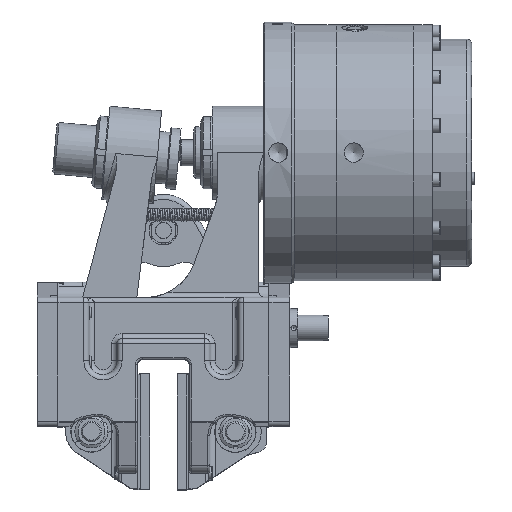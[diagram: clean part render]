
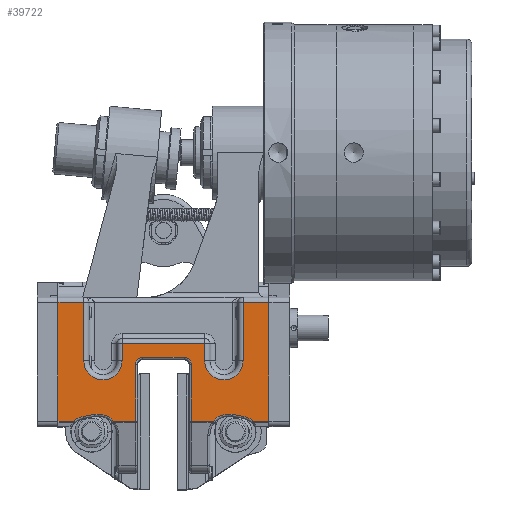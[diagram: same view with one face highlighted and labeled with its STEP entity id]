
A CAD part, top view. The second image highlights one B-rep face of the part: STEP entity #39722.
In plain terms, the highlighted planar face has unit normal (0, 0, 1).
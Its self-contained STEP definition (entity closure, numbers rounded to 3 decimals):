
#2917=CIRCLE('',#42582,20.);
#2921=CIRCLE('',#42588,18.);
#2923=CIRCLE('',#42594,7.);
#2924=CIRCLE('',#42595,7.);
#2925=CIRCLE('',#42596,20.);
#2926=CIRCLE('',#42597,18.);
#2927=CIRCLE('',#42598,18.5);
#2928=CIRCLE('',#42599,18.5);
#5168=FACE_OUTER_BOUND('',#7435,.T.);
#7435=EDGE_LOOP('',(#27629,#27630,#27631,#27632,#27633,#27634,#27635,#27636,
#27637,#27638,#27639,#27640,#27641,#27642,#27643,#27644,#27645,#27646,#27647,
#27648,#27649,#27650,#27651,#27652,#27653,#27654));
#9918=LINE('',#62353,#12553);
#10060=LINE('',#62819,#12695);
#10204=LINE('',#63672,#12839);
#10205=LINE('',#63745,#12840);
#10207=LINE('',#63749,#12842);
#10208=LINE('',#63751,#12843);
#10209=LINE('',#63755,#12844);
#10210=LINE('',#63759,#12845);
#10211=LINE('',#63761,#12846);
#10212=LINE('',#63765,#12847);
#10213=LINE('',#63768,#12848);
#10214=LINE('',#63770,#12849);
#10215=LINE('',#63772,#12850);
#10216=LINE('',#63776,#12851);
#10217=LINE('',#63778,#12852);
#10218=LINE('',#63780,#12853);
#10219=LINE('',#63784,#12854);
#10220=LINE('',#63785,#12855);
#12553=VECTOR('',#48248,10.);
#12695=VECTOR('',#48706,10.);
#12839=VECTOR('',#49324,10.);
#12840=VECTOR('',#49341,10.);
#12842=VECTOR('',#49345,10.);
#12843=VECTOR('',#49346,10.);
#12844=VECTOR('',#49349,10.);
#12845=VECTOR('',#49352,10.);
#12846=VECTOR('',#49353,10.);
#12847=VECTOR('',#49356,10.);
#12848=VECTOR('',#49359,10.);
#12849=VECTOR('',#49360,5.);
#12850=VECTOR('',#49361,10.);
#12851=VECTOR('',#49364,10.);
#12852=VECTOR('',#49365,10.);
#12853=VECTOR('',#49366,10.);
#12854=VECTOR('',#49369,10.);
#12855=VECTOR('',#49370,5.);
#15464=VERTEX_POINT('',#62343);
#15467=VERTEX_POINT('',#62351);
#15631=VERTEX_POINT('',#62812);
#15633=VERTEX_POINT('',#62818);
#15849=VERTEX_POINT('',#63650);
#15851=VERTEX_POINT('',#63662);
#15853=VERTEX_POINT('',#63668);
#15855=VERTEX_POINT('',#63674);
#15861=VERTEX_POINT('',#63748);
#15862=VERTEX_POINT('',#63750);
#15863=VERTEX_POINT('',#63752);
#15864=VERTEX_POINT('',#63754);
#15865=VERTEX_POINT('',#63756);
#15866=VERTEX_POINT('',#63758);
#15867=VERTEX_POINT('',#63760);
#15868=VERTEX_POINT('',#63762);
#15869=VERTEX_POINT('',#63764);
#15870=VERTEX_POINT('',#63766);
#15871=VERTEX_POINT('',#63769);
#15872=VERTEX_POINT('',#63771);
#15873=VERTEX_POINT('',#63773);
#15874=VERTEX_POINT('',#63775);
#15875=VERTEX_POINT('',#63777);
#15876=VERTEX_POINT('',#63779);
#15877=VERTEX_POINT('',#63781);
#15878=VERTEX_POINT('',#63783);
#19773=EDGE_CURVE('',#15464,#15467,#9918,.T.);
#20006=EDGE_CURVE('',#15633,#15631,#10060,.T.);
#20321=EDGE_CURVE('',#15849,#15851,#2917,.T.);
#20324=EDGE_CURVE('',#15851,#15853,#10204,.T.);
#20327=EDGE_CURVE('',#15853,#15855,#2921,.T.);
#20334=EDGE_CURVE('',#15855,#15631,#10205,.T.);
#20336=EDGE_CURVE('',#15861,#15849,#10207,.T.);
#20337=EDGE_CURVE('',#15862,#15861,#10208,.T.);
#20338=EDGE_CURVE('',#15863,#15862,#2923,.T.);
#20339=EDGE_CURVE('',#15864,#15863,#10209,.T.);
#20340=EDGE_CURVE('',#15865,#15864,#2924,.T.);
#20341=EDGE_CURVE('',#15866,#15865,#10210,.T.);
#20342=EDGE_CURVE('',#15867,#15866,#10211,.T.);
#20343=EDGE_CURVE('',#15868,#15867,#2925,.T.);
#20344=EDGE_CURVE('',#15869,#15868,#10212,.T.);
#20345=EDGE_CURVE('',#15870,#15869,#2926,.T.);
#20346=EDGE_CURVE('',#15464,#15870,#10213,.T.);
#20347=EDGE_CURVE('',#15871,#15467,#10214,.T.);
#20348=EDGE_CURVE('',#15872,#15871,#10215,.T.);
#20349=EDGE_CURVE('',#15873,#15872,#2927,.T.);
#20350=EDGE_CURVE('',#15874,#15873,#10216,.T.);
#20351=EDGE_CURVE('',#15875,#15874,#10217,.T.);
#20352=EDGE_CURVE('',#15876,#15875,#10218,.T.);
#20353=EDGE_CURVE('',#15877,#15876,#2928,.T.);
#20354=EDGE_CURVE('',#15878,#15877,#10219,.T.);
#20355=EDGE_CURVE('',#15633,#15878,#10220,.T.);
#27629=ORIENTED_EDGE('',*,*,#20327,.F.);
#27630=ORIENTED_EDGE('',*,*,#20324,.F.);
#27631=ORIENTED_EDGE('',*,*,#20321,.F.);
#27632=ORIENTED_EDGE('',*,*,#20336,.F.);
#27633=ORIENTED_EDGE('',*,*,#20337,.F.);
#27634=ORIENTED_EDGE('',*,*,#20338,.F.);
#27635=ORIENTED_EDGE('',*,*,#20339,.F.);
#27636=ORIENTED_EDGE('',*,*,#20340,.F.);
#27637=ORIENTED_EDGE('',*,*,#20341,.F.);
#27638=ORIENTED_EDGE('',*,*,#20342,.F.);
#27639=ORIENTED_EDGE('',*,*,#20343,.F.);
#27640=ORIENTED_EDGE('',*,*,#20344,.F.);
#27641=ORIENTED_EDGE('',*,*,#20345,.F.);
#27642=ORIENTED_EDGE('',*,*,#20346,.F.);
#27643=ORIENTED_EDGE('',*,*,#19773,.T.);
#27644=ORIENTED_EDGE('',*,*,#20347,.F.);
#27645=ORIENTED_EDGE('',*,*,#20348,.F.);
#27646=ORIENTED_EDGE('',*,*,#20349,.F.);
#27647=ORIENTED_EDGE('',*,*,#20350,.F.);
#27648=ORIENTED_EDGE('',*,*,#20351,.F.);
#27649=ORIENTED_EDGE('',*,*,#20352,.F.);
#27650=ORIENTED_EDGE('',*,*,#20353,.F.);
#27651=ORIENTED_EDGE('',*,*,#20354,.F.);
#27652=ORIENTED_EDGE('',*,*,#20355,.F.);
#27653=ORIENTED_EDGE('',*,*,#20006,.T.);
#27654=ORIENTED_EDGE('',*,*,#20334,.F.);
#36522=PLANE('',#42593);
#39722=ADVANCED_FACE('',(#5168),#36522,.T.);
#42582=AXIS2_PLACEMENT_3D('',#63666,#49317,#49318);
#42588=AXIS2_PLACEMENT_3D('',#63678,#49331,#49332);
#42593=AXIS2_PLACEMENT_3D('',#63747,#49343,#49344);
#42594=AXIS2_PLACEMENT_3D('',#63753,#49347,#49348);
#42595=AXIS2_PLACEMENT_3D('',#63757,#49350,#49351);
#42596=AXIS2_PLACEMENT_3D('',#63763,#49354,#49355);
#42597=AXIS2_PLACEMENT_3D('',#63767,#49357,#49358);
#42598=AXIS2_PLACEMENT_3D('',#63774,#49362,#49363);
#42599=AXIS2_PLACEMENT_3D('',#63782,#49367,#49368);
#48248=DIRECTION('',(0.,1.,0.));
#48706=DIRECTION('',(0.,-1.,0.));
#49317=DIRECTION('center_axis',(0.,0.,
1.));
#49318=DIRECTION('ref_axis',(0.29,0.957,0.));
#49324=DIRECTION('',(-0.985,-0.174,0.));
#49331=DIRECTION('center_axis',(0.,0.,
1.));
#49332=DIRECTION('ref_axis',(-0.388,0.922,0.));
#49341=DIRECTION('',(-1.,0.,0.));
#49343=DIRECTION('center_axis',(0.,0.,
1.));
#49344=DIRECTION('ref_axis',(1.,0.,0.));
#49345=DIRECTION('',(-1.,0.,0.));
#49346=DIRECTION('',(0.,-1.,0.));
#49347=DIRECTION('center_axis',(0.,0.,
1.));
#49348=DIRECTION('ref_axis',(-0.707,0.707,0.));
#49349=DIRECTION('',(-1.,0.,0.));
#49350=DIRECTION('center_axis',(0.,0.,
1.));
#49351=DIRECTION('ref_axis',(0.707,0.707,0.));
#49352=DIRECTION('',(0.,1.,0.));
#49353=DIRECTION('',(-1.,0.,0.));
#49354=DIRECTION('center_axis',(0.,0.,
1.));
#49355=DIRECTION('ref_axis',(-0.29,0.957,0.));
#49356=DIRECTION('',(-0.985,0.174,0.));
#49357=DIRECTION('center_axis',(0.,0.,
1.));
#49358=DIRECTION('ref_axis',(0.388,0.922,0.));
#49359=DIRECTION('',(-1.,0.,0.));
#49360=DIRECTION('',(1.,0.,0.));
#49361=DIRECTION('',(0.,1.,0.));
#49362=DIRECTION('center_axis',(0.,0.,
1.));
#49363=DIRECTION('ref_axis',(0.,-1.,0.));
#49364=DIRECTION('',(0.,-1.,0.));
#49365=DIRECTION('',(1.,0.,0.));
#49366=DIRECTION('',(0.,1.,0.));
#49367=DIRECTION('center_axis',(0.,0.,
1.));
#49368=DIRECTION('ref_axis',(0.,-1.,0.));
#49369=DIRECTION('',(0.,-1.,0.));
#49370=DIRECTION('',(1.,0.,0.));
#62343=CARTESIAN_POINT('',(102.,50.,285.));
#62351=CARTESIAN_POINT('',(102.,165.,285.));
#62353=CARTESIAN_POINT('',(102.,170.,285.));
#62812=CARTESIAN_POINT('',(-102.,50.,285.));
#62818=CARTESIAN_POINT('',(-102.,165.,285.));
#62819=CARTESIAN_POINT('',(-102.,45.,285.));
#63650=CARTESIAN_POINT('',(-47.801,50.,285.));
#63662=CARTESIAN_POINT('',(-66.478,56.695,285.));
#63666=CARTESIAN_POINT('Origin',(-63.,37.,285.));
#63668=CARTESIAN_POINT('',(-77.63,54.726,285.));
#63672=CARTESIAN_POINT('',(-36.958,61.909,285.));
#63674=CARTESIAN_POINT('',(-86.95,50.,285.));
#63678=CARTESIAN_POINT('Origin',(-74.5,37.,285.));
#63745=CARTESIAN_POINT('',(-102.,50.,285.));
#63747=CARTESIAN_POINT('Origin',(0.,90.129,
285.));
#63748=CARTESIAN_POINT('',(-27.,50.,285.));
#63749=CARTESIAN_POINT('',(-102.,50.,285.));
#63750=CARTESIAN_POINT('',(-27.,105.,285.));
#63751=CARTESIAN_POINT('',(-27.,45.065,285.));
#63752=CARTESIAN_POINT('',(-20.,112.,285.));
#63753=CARTESIAN_POINT('Origin',(-20.,105.,285.));
#63754=CARTESIAN_POINT('',(20.,112.,285.));
#63755=CARTESIAN_POINT('',(-10.,112.,285.));
#63756=CARTESIAN_POINT('',(27.,105.,285.));
#63757=CARTESIAN_POINT('Origin',(20.,105.,285.));
#63758=CARTESIAN_POINT('',(27.,50.,285.));
#63759=CARTESIAN_POINT('',(27.,97.565,285.));
#63760=CARTESIAN_POINT('',(47.801,50.,285.));
#63761=CARTESIAN_POINT('',(-102.,50.,285.));
#63762=CARTESIAN_POINT('',(66.478,56.695,285.));
#63763=CARTESIAN_POINT('Origin',(63.,37.,285.));
#63764=CARTESIAN_POINT('',(77.63,54.726,285.));
#63765=CARTESIAN_POINT('',(31.381,62.893,285.));
#63766=CARTESIAN_POINT('',(86.95,50.,285.));
#63767=CARTESIAN_POINT('Origin',(74.5,37.,285.));
#63768=CARTESIAN_POINT('',(-102.,50.,285.));
#63769=CARTESIAN_POINT('',(77.,165.,285.));
#63770=CARTESIAN_POINT('',(0.,165.,285.));
#63771=CARTESIAN_POINT('',(77.,108.5,285.));
#63772=CARTESIAN_POINT('',(77.,127.565,285.));
#63773=CARTESIAN_POINT('',(40.,108.5,285.));
#63774=CARTESIAN_POINT('Origin',(58.5,108.5,285.));
#63775=CARTESIAN_POINT('',(40.,125.,285.));
#63776=CARTESIAN_POINT('',(40.,99.315,285.));
#63777=CARTESIAN_POINT('',(-40.,125.,285.));
#63778=CARTESIAN_POINT('',(20.,125.,285.));
#63779=CARTESIAN_POINT('',(-40.,108.5,285.));
#63780=CARTESIAN_POINT('',(-40.,107.565,285.));
#63781=CARTESIAN_POINT('',(-77.,108.5,285.));
#63782=CARTESIAN_POINT('Origin',(-58.5,108.5,285.));
#63783=CARTESIAN_POINT('',(-77.,165.,285.));
#63784=CARTESIAN_POINT('',(-77.,99.315,285.));
#63785=CARTESIAN_POINT('',(102.,165.,285.));
